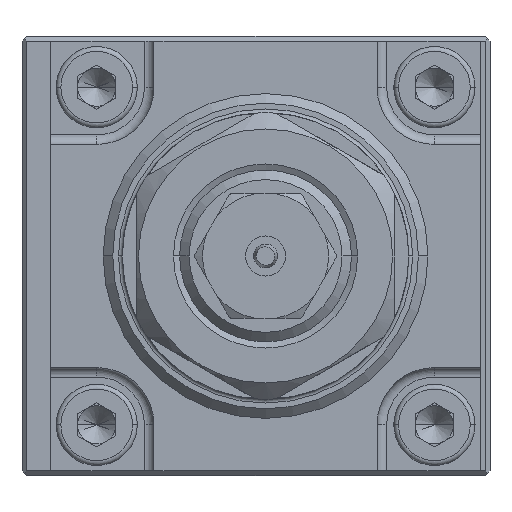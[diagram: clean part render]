
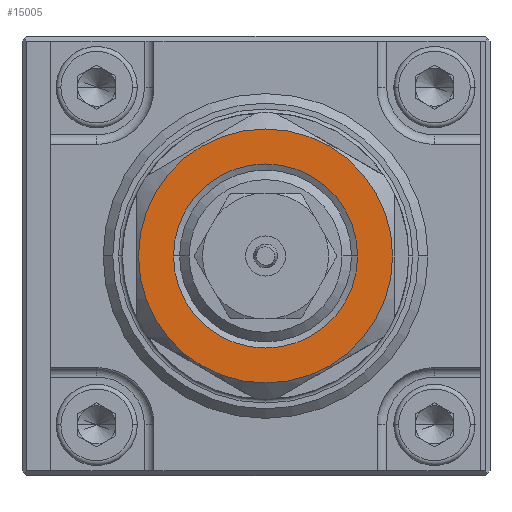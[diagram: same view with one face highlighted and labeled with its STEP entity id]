
A CAD part, left-side view. The second image highlights one B-rep face of the part: STEP entity #15005.
In plain terms, the highlighted planar face has unit normal (-1, 0, 0).
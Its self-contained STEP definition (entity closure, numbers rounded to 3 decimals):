
#12281 = EDGE_LOOP ( 'NONE', ( #15654, #15655 ) ) ;
#12282 = EDGE_LOOP ( 'NONE', ( #15657, #15656 ) ) ;
#14860 = EDGE_CURVE ( 'NONE', #15965, #15964, #42415, .T. ) ;
#14914 = EDGE_CURVE ( 'NONE', #16006, #16007, #42447, .T. ) ;
#14920 = EDGE_CURVE ( 'NONE', #16007, #16006, #42448, .T. ) ;
#14943 = EDGE_CURVE ( 'NONE', #15964, #15965, #42461, .T. ) ;
#15005 = ADVANCED_FACE ( 'NONE', ( #39913, #39917 ), #43325, .T. ) ;
#15654 = ORIENTED_EDGE ( 'NONE', *, *, #14860, .T. ) ;
#15655 = ORIENTED_EDGE ( 'NONE', *, *, #14943, .T. ) ;
#15656 = ORIENTED_EDGE ( 'NONE', *, *, #14920, .F. ) ;
#15657 = ORIENTED_EDGE ( 'NONE', *, *, #14914, .F. ) ;
#15964 = VERTEX_POINT ( 'NONE', #43783 ) ;
#15965 = VERTEX_POINT ( 'NONE', #43784 ) ;
#16006 = VERTEX_POINT ( 'NONE', #43825 ) ;
#16007 = VERTEX_POINT ( 'NONE', #43826 ) ;
#39737 = AXIS2_PLACEMENT_3D ( 'NONE', #42299, #42300, #42301 ) ;
#39793 = AXIS2_PLACEMENT_3D ( 'NONE', #42972, #42979, #42980 ) ;
#39795 = AXIS2_PLACEMENT_3D ( 'NONE', #43025, #43029, #43030 ) ;
#39812 = AXIS2_PLACEMENT_3D ( 'NONE', #43137, #43138, #43139 ) ;
#39913 = FACE_BOUND ( 'NONE', #12281, .T. ) ;
#39917 = FACE_OUTER_BOUND ( 'NONE', #12282, .T. ) ;
#39919 = AXIS2_PLACEMENT_3D ( 'NONE', #43326, #43327, #43328 ) ;
#42299 = CARTESIAN_POINT ( 'NONE',  ( -87.302, -0.5, 0. ) ) ;
#42300 = DIRECTION ( 'NONE',  ( 1., 0., 0. ) ) ;
#42301 = DIRECTION ( 'NONE',  ( 0., -1., 0. ) ) ;
#42415 = CIRCLE ( 'NONE', #39737, 9.636 ) ;
#42447 = CIRCLE ( 'NONE', #39793, 13.3 ) ;
#42448 = CIRCLE ( 'NONE', #39795, 13.3 ) ;
#42461 = CIRCLE ( 'NONE', #39812, 9.636 ) ;
#42972 = CARTESIAN_POINT ( 'NONE',  ( -87.302, -0.5, 0. ) ) ;
#42979 = DIRECTION ( 'NONE',  ( 1., 0., 0. ) ) ;
#42980 = DIRECTION ( 'NONE',  ( 0., 1., 0. ) ) ;
#43025 = CARTESIAN_POINT ( 'NONE',  ( -87.302, -0.5, 0. ) ) ;
#43029 = DIRECTION ( 'NONE',  ( 1., 0., 0. ) ) ;
#43030 = DIRECTION ( 'NONE',  ( 0., 1., 0. ) ) ;
#43137 = CARTESIAN_POINT ( 'NONE',  ( -87.302, -0.5, 0. ) ) ;
#43138 = DIRECTION ( 'NONE',  ( 1., 0., 0. ) ) ;
#43139 = DIRECTION ( 'NONE',  ( 0., -1., 0. ) ) ;
#43325 = PLANE ( 'NONE',  #39919 ) ;
#43326 = CARTESIAN_POINT ( 'NONE',  ( -87.302, -0.5, 13.3 ) ) ;
#43327 = DIRECTION ( 'NONE',  ( -1., 0., 0. ) ) ;
#43328 = DIRECTION ( 'NONE',  ( 0., -1., 0. ) ) ;
#43783 = CARTESIAN_POINT ( 'NONE',  ( -87.302, 9.136, 0. ) ) ;
#43784 = CARTESIAN_POINT ( 'NONE',  ( -87.302, -10.136, 0. ) ) ;
#43825 = CARTESIAN_POINT ( 'NONE',  ( -87.302, 12.8, 0. ) ) ;
#43826 = CARTESIAN_POINT ( 'NONE',  ( -87.302, -13.8, 0. ) ) ;
